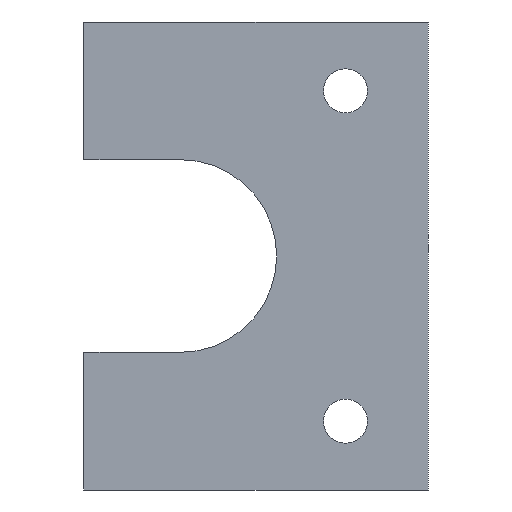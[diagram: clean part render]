
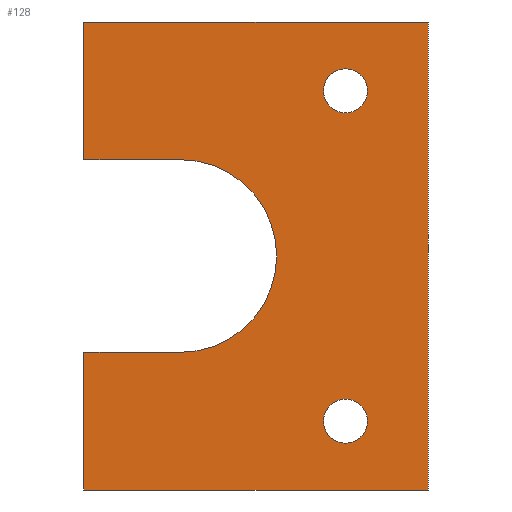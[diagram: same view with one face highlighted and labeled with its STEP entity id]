
A CAD part, left-side view. The second image highlights one B-rep face of the part: STEP entity #128.
In plain terms, the highlighted planar face has unit normal (-1, 0, 0).
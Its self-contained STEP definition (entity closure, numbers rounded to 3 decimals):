
#27 = EDGE_CURVE ( 'NONE', #95, #384, #279, .T. ) ;
#30 = LINE ( 'NONE', #182, #119 ) ;
#32 = CIRCLE ( 'NONE', #321, 1.6 ) ;
#37 = CARTESIAN_POINT ( 'NONE',  ( 0., 0., -7. ) ) ;
#39 = CARTESIAN_POINT ( 'NONE',  ( 0., 7., 0. ) ) ;
#42 = AXIS2_PLACEMENT_3D ( 'NONE', #360, #147, #328 ) ;
#44 = FACE_BOUND ( 'NONE', #221, .T. ) ;
#48 = VERTEX_POINT ( 'NONE', #37 ) ;
#55 = DIRECTION ( 'NONE',  ( 1., 0., 0. ) ) ;
#63 = VERTEX_POINT ( 'NONE', #376 ) ;
#64 = VERTEX_POINT ( 'NONE', #323 ) ;
#68 = CIRCLE ( 'NONE', #111, 7. ) ;
#71 = DIRECTION ( 'NONE',  ( 0., 0., 1. ) ) ;
#82 = DIRECTION ( 'NONE',  ( 0., 1., 0. ) ) ;
#85 = CARTESIAN_POINT ( 'NONE',  ( 0., 0., 7. ) ) ;
#90 = DIRECTION ( 'NONE',  ( 1., 0., 0. ) ) ;
#92 = PLANE ( 'NONE',  #339 ) ;
#95 = VERTEX_POINT ( 'NONE', #261 ) ;
#111 = AXIS2_PLACEMENT_3D ( 'NONE', #387, #177, #358 ) ;
#112 = CIRCLE ( 'NONE', #42, 1.6 ) ;
#114 = LINE ( 'NONE', #186, #281 ) ;
#116 = DIRECTION ( 'NONE',  ( 0., 0., 1. ) ) ;
#117 = EDGE_CURVE ( 'NONE', #252, #63, #123, .T. ) ;
#119 = VECTOR ( 'NONE', #364, 1000. ) ;
#123 = LINE ( 'NONE', #218, #290 ) ;
#128 = ADVANCED_FACE ( 'NONE', ( #355, #44, #367 ), #92, .F. ) ;
#129 = EDGE_CURVE ( 'NONE', #212, #252, #114, .T. ) ;
#133 = ORIENTED_EDGE ( 'NONE', *, *, #129, .F. ) ;
#146 = EDGE_CURVE ( 'NONE', #236, #236, #32, .T. ) ;
#147 = DIRECTION ( 'NONE',  ( 1., 0., 0. ) ) ;
#160 = ORIENTED_EDGE ( 'NONE', *, *, #371, .T. ) ;
#164 = ORIENTED_EDGE ( 'NONE', *, *, #146, .T. ) ;
#167 = VECTOR ( 'NONE', #116, 1000. ) ;
#177 = DIRECTION ( 'NONE',  ( 1., 0., 0. ) ) ;
#180 = CARTESIAN_POINT ( 'NONE',  ( 0., 7., -7. ) ) ;
#182 = CARTESIAN_POINT ( 'NONE',  ( 0., 0., 17. ) ) ;
#186 = CARTESIAN_POINT ( 'NONE',  ( 0., -18., 0. ) ) ;
#192 = EDGE_LOOP ( 'NONE', ( #160, #372, #274, #297, #133, #331, #227, #324 ) ) ;
#193 = VERTEX_POINT ( 'NONE', #305 ) ;
#196 = VECTOR ( 'NONE', #71, 1000. ) ;
#210 = EDGE_CURVE ( 'NONE', #384, #212, #30, .T. ) ;
#211 = CARTESIAN_POINT ( 'NONE',  ( 0., -18., -17. ) ) ;
#212 = VERTEX_POINT ( 'NONE', #213 ) ;
#213 = CARTESIAN_POINT ( 'NONE',  ( 0., -18., 17. ) ) ;
#218 = CARTESIAN_POINT ( 'NONE',  ( 0., 0., -17. ) ) ;
#221 = EDGE_LOOP ( 'NONE', ( #164 ) ) ;
#227 = ORIENTED_EDGE ( 'NONE', *, *, #27, .F. ) ;
#231 = LINE ( 'NONE', #301, #167 ) ;
#233 = EDGE_CURVE ( 'NONE', #64, #64, #112, .T. ) ;
#236 = VERTEX_POINT ( 'NONE', #269 ) ;
#237 = EDGE_LOOP ( 'NONE', ( #254 ) ) ;
#245 = CARTESIAN_POINT ( 'NONE',  ( 0., 0., -7. ) ) ;
#250 = DIRECTION ( 'NONE',  ( 0., 0., -1. ) ) ;
#251 = VERTEX_POINT ( 'NONE', #180 ) ;
#252 = VERTEX_POINT ( 'NONE', #211 ) ;
#253 = CARTESIAN_POINT ( 'NONE',  ( 0., 0., 0. ) ) ;
#254 = ORIENTED_EDGE ( 'NONE', *, *, #233, .T. ) ;
#257 = VECTOR ( 'NONE', #276, 1000. ) ;
#261 = CARTESIAN_POINT ( 'NONE',  ( 0., 7., 7. ) ) ;
#269 = CARTESIAN_POINT ( 'NONE',  ( 0., -12., 10.4 ) ) ;
#271 = CARTESIAN_POINT ( 'NONE',  ( 0., 7., 17. ) ) ;
#274 = ORIENTED_EDGE ( 'NONE', *, *, #378, .F. ) ;
#276 = DIRECTION ( 'NONE',  ( 0., -1., 0. ) ) ;
#279 = LINE ( 'NONE', #39, #196 ) ;
#280 = DIRECTION ( 'NONE',  ( 0., 0., -1. ) ) ;
#281 = VECTOR ( 'NONE', #368, 1000. ) ;
#290 = VECTOR ( 'NONE', #307, 1000. ) ;
#297 = ORIENTED_EDGE ( 'NONE', *, *, #117, .F. ) ;
#301 = CARTESIAN_POINT ( 'NONE',  ( 0., 7., 0. ) ) ;
#305 = CARTESIAN_POINT ( 'NONE',  ( 0., 0., 7. ) ) ;
#306 = CARTESIAN_POINT ( 'NONE',  ( 0., -12., 12. ) ) ;
#307 = DIRECTION ( 'NONE',  ( 0., 1., 0. ) ) ;
#311 = EDGE_CURVE ( 'NONE', #251, #48, #326, .T. ) ;
#313 = VECTOR ( 'NONE', #82, 1000. ) ;
#321 = AXIS2_PLACEMENT_3D ( 'NONE', #306, #90, #280 ) ;
#323 = CARTESIAN_POINT ( 'NONE',  ( 0., -12., -13.6 ) ) ;
#324 = ORIENTED_EDGE ( 'NONE', *, *, #359, .F. ) ;
#326 = LINE ( 'NONE', #245, #257 ) ;
#328 = DIRECTION ( 'NONE',  ( 0., 0., -1. ) ) ;
#331 = ORIENTED_EDGE ( 'NONE', *, *, #210, .F. ) ;
#339 = AXIS2_PLACEMENT_3D ( 'NONE', #253, #55, #250 ) ;
#355 = FACE_BOUND ( 'NONE', #237, .T. ) ;
#358 = DIRECTION ( 'NONE',  ( 0., 0., -1. ) ) ;
#359 = EDGE_CURVE ( 'NONE', #193, #95, #389, .T. ) ;
#360 = CARTESIAN_POINT ( 'NONE',  ( 0., -12., -12. ) ) ;
#364 = DIRECTION ( 'NONE',  ( 0., -1., 0. ) ) ;
#367 = FACE_OUTER_BOUND ( 'NONE', #192, .T. ) ;
#368 = DIRECTION ( 'NONE',  ( 0., 0., -1. ) ) ;
#371 = EDGE_CURVE ( 'NONE', #193, #48, #68, .T. ) ;
#372 = ORIENTED_EDGE ( 'NONE', *, *, #311, .F. ) ;
#376 = CARTESIAN_POINT ( 'NONE',  ( 0., 7., -17. ) ) ;
#378 = EDGE_CURVE ( 'NONE', #63, #251, #231, .T. ) ;
#384 = VERTEX_POINT ( 'NONE', #271 ) ;
#387 = CARTESIAN_POINT ( 'NONE',  ( 0., 0., 0. ) ) ;
#389 = LINE ( 'NONE', #85, #313 ) ;
